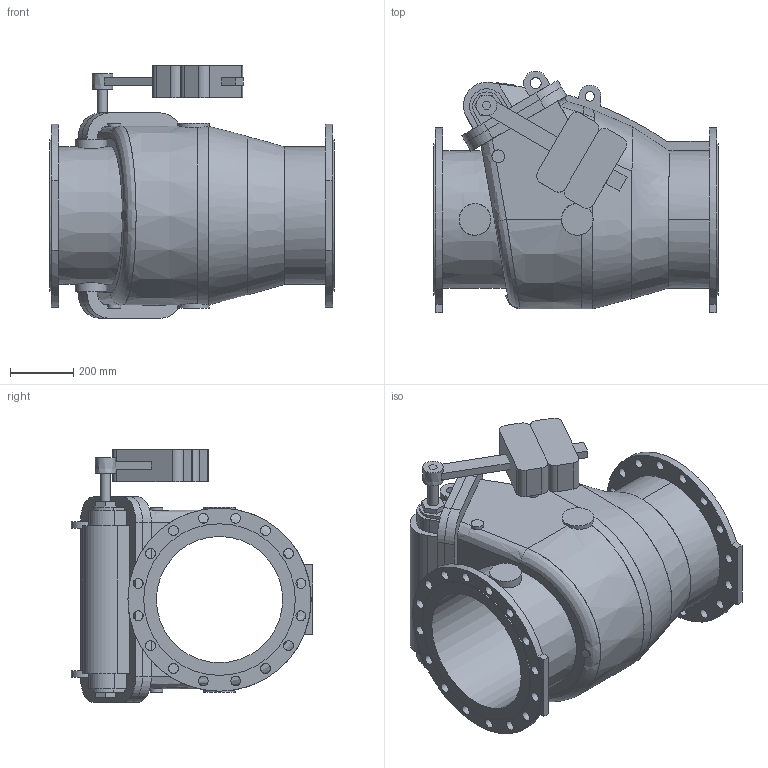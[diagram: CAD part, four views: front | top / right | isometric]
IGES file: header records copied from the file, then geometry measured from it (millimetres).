
Start section: SolidWorks IGES file using analytic representation for surfaces
Global section: file name: \\avksan2\techshare\PBM outline export from Enovia\O_41_36_DN400_X1XXX_AA0.igs; native system: SolidWorks 2012; preprocessor: SolidWorks 2012; author: pbm; date: 180816.103428; units: millimetre
Bounding box: 900 x 764.27 x 799.5 mm (x, y, z)
Surface area: 4086271.9 mm2 (no closed solid volume)
Topology: 0 solids, 0 shells, 288 faces, 1565 edges, 1469 vertices
Faces by surface type: bspline 202, revolution 86
